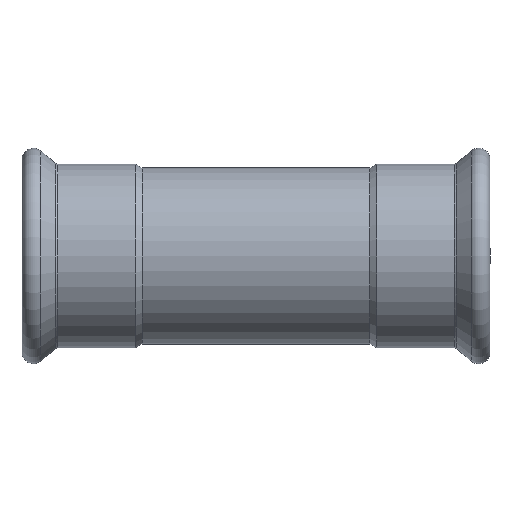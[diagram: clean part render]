
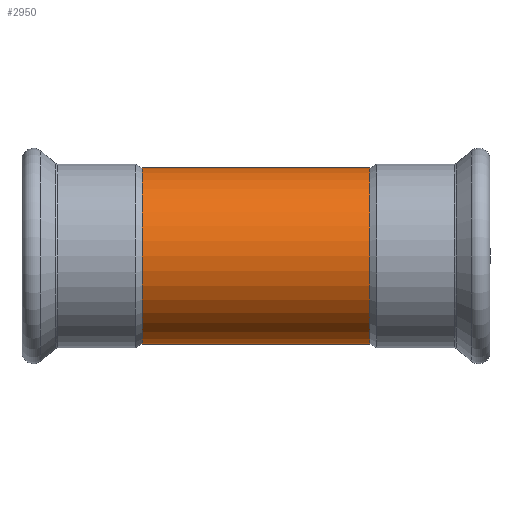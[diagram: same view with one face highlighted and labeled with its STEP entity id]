
A CAD part, front view. The second image highlights one B-rep face of the part: STEP entity #2950.
In plain terms, the highlighted cylindrical face has radius 54 mm (diameter 108 mm), a full revolution.
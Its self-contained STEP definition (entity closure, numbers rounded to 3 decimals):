
#2697=CARTESIAN_POINT('',(0.,37.743,38.62));
#2698=VERTEX_POINT('',#2697);
#2803=CARTESIAN_POINT('',(0.,37.743,38.62));
#2804=CARTESIAN_POINT('',(1.167,37.743,38.62));
#2805=CARTESIAN_POINT('',(2.725,37.811,38.554));
#2806=CARTESIAN_POINT('',(5.036,38.041,38.326));
#2807=CARTESIAN_POINT('',(6.948,38.313,38.056));
#2808=CARTESIAN_POINT('',(9.566,38.824,37.536));
#2809=CARTESIAN_POINT('',(11.753,39.39,36.942));
#2810=CARTESIAN_POINT('',(14.596,40.254,36.002));
#2811=CARTESIAN_POINT('',(16.997,41.12,35.02));
#2812=CARTESIAN_POINT('',(19.432,42.13,33.786));
#2813=CARTESIAN_POINT('',(20.685,42.687,33.076));
#2814=CARTESIAN_POINT('',(22.522,43.531,31.969));
#2815=CARTESIAN_POINT('',(25.02,44.767,30.253));
#2816=CARTESIAN_POINT('',(27.994,46.387,27.7));
#2817=CARTESIAN_POINT('',(29.969,47.532,25.65));
#2818=CARTESIAN_POINT('',(31.519,48.455,23.855));
#2819=CARTESIAN_POINT('',(32.902,49.301,22.08));
#2820=CARTESIAN_POINT('',(34.632,50.391,19.487));
#2821=CARTESIAN_POINT('',(36.034,51.3,16.94));
#2822=CARTESIAN_POINT('',(37.243,52.097,14.279));
#2823=CARTESIAN_POINT('',(38.189,52.73,11.759));
#2824=CARTESIAN_POINT('',(38.806,53.148,9.619));
#2825=CARTESIAN_POINT('',(39.259,53.457,7.69));
#2826=CARTESIAN_POINT('',(39.637,53.716,5.735));
#2827=CARTESIAN_POINT('',(40.09,54.027,2.014));
#2828=CARTESIAN_POINT('',(40.09,54.028,-1.756));
#2829=CARTESIAN_POINT('',(39.759,53.799,-4.736));
#2830=CARTESIAN_POINT('',(39.459,53.594,-6.709));
#2831=CARTESIAN_POINT('',(38.815,53.154,-9.872));
#2832=CARTESIAN_POINT('',(37.563,52.307,-13.646));
#2833=CARTESIAN_POINT('',(36.005,51.281,-16.976));
#2834=CARTESIAN_POINT('',(35.068,50.675,-18.674));
#2835=CARTESIAN_POINT('',(34.076,50.041,-20.321));
#2836=CARTESIAN_POINT('',(32.883,49.29,-22.106));
#2837=CARTESIAN_POINT('',(30.533,47.854,-25.116));
#2838=CARTESIAN_POINT('',(27.98,46.373,-27.731));
#2839=CARTESIAN_POINT('',(25.548,45.066,-29.761));
#2840=CARTESIAN_POINT('',(23.529,44.025,-31.289));
#2841=CARTESIAN_POINT('',(21.022,42.812,-32.942));
#2842=CARTESIAN_POINT('',(17.611,41.348,-34.755));
#2843=CARTESIAN_POINT('',(14.589,40.252,-36.006));
#2844=CARTESIAN_POINT('',(12.238,39.535,-36.786));
#2845=CARTESIAN_POINT('',(10.954,39.189,-37.152));
#2846=CARTESIAN_POINT('',(9.001,38.707,-37.657));
#2847=CARTESIAN_POINT('',(5.501,38.009,-38.363));
#2848=CARTESIAN_POINT('',(1.266,37.681,-38.679));
#2849=CARTESIAN_POINT('',(-1.849,37.774,-38.589));
#2850=CARTESIAN_POINT('',(-3.916,37.914,-38.452));
#2851=CARTESIAN_POINT('',(-7.245,38.297,-38.073));
#2852=CARTESIAN_POINT('',(-10.973,39.138,-37.219));
#2853=CARTESIAN_POINT('',(-13.812,40.017,-36.261));
#2854=CARTESIAN_POINT('',(-15.663,40.641,-35.561));
#2855=CARTESIAN_POINT('',(-17.678,41.392,-34.692));
#2856=CARTESIAN_POINT('',(-20.029,42.384,-33.473));
#2857=CARTESIAN_POINT('',(-21.676,43.14,-32.486));
#2858=CARTESIAN_POINT('',(-24.082,44.291,-30.922));
#2859=CARTESIAN_POINT('',(-26.537,45.577,-29.03));
#2860=CARTESIAN_POINT('',(-29.272,47.122,-26.406));
#2861=CARTESIAN_POINT('',(-31.485,48.428,-23.955));
#2862=CARTESIAN_POINT('',(-33.207,49.491,-21.659));
#2863=CARTESIAN_POINT('',(-34.758,50.474,-19.228));
#2864=CARTESIAN_POINT('',(-35.941,51.238,-17.121));
#2865=CARTESIAN_POINT('',(-37.168,52.047,-14.483));
#2866=CARTESIAN_POINT('',(-38.201,52.739,-11.722));
#2867=CARTESIAN_POINT('',(-38.848,53.177,-9.468));
#2868=CARTESIAN_POINT('',(-39.402,53.554,-7.049));
#2869=CARTESIAN_POINT('',(-39.894,53.892,-4.095));
#2870=CARTESIAN_POINT('',(-40.141,54.063,0.032));
#2871=CARTESIAN_POINT('',(-39.887,53.887,4.163));
#2872=CARTESIAN_POINT('',(-39.39,53.546,7.112));
#2873=CARTESIAN_POINT('',(-38.72,53.09,10.016));
#2874=CARTESIAN_POINT('',(-37.946,52.566,12.504));
#2875=CARTESIAN_POINT('',(-36.831,51.824,15.221));
#2876=CARTESIAN_POINT('',(-35.261,50.793,18.497));
#2877=CARTESIAN_POINT('',(-33.329,49.559,21.566));
#2878=CARTESIAN_POINT('',(-31.1,48.203,24.363));
#2879=CARTESIAN_POINT('',(-29.68,47.363,25.958));
#2880=CARTESIAN_POINT('',(-27.69,46.221,27.962));
#2881=CARTESIAN_POINT('',(-24.99,44.751,30.276));
#2882=CARTESIAN_POINT('',(-22.04,43.293,32.299));
#2883=CARTESIAN_POINT('',(-19.542,42.175,33.732));
#2884=CARTESIAN_POINT('',(-17.606,41.373,34.709));
#2885=CARTESIAN_POINT('',(-14.932,40.364,35.884));
#2886=CARTESIAN_POINT('',(-12.115,39.469,36.861));
#2887=CARTESIAN_POINT('',(-8.461,38.571,37.798));
#2888=CARTESIAN_POINT('',(-4.671,37.924,38.444));
#2889=CARTESIAN_POINT('',(-1.557,37.743,38.62));
#2890=CARTESIAN_POINT('',(0.,37.743,38.62));
#2891=CARTESIAN_POINT('',(0.,37.743,38.62));
#2892=CARTESIAN_POINT('',(0.,37.743,38.62));
#2893=CARTESIAN_POINT('',(0.,37.743,38.62));
#2894=B_SPLINE_CURVE_WITH_KNOTS('',3,(#2803,#2804,#2805,#2806,#2807,#2808,#2809,#2810,#2811,#2812,#2813,#2814,#2815,#2816,#2817,#2818,#2819,#2820,#2821,#2822,#2823,#2824,#2825,#2826,#2827,#2828,#2829,#2830,#2831,#2832,#2833,#2834,#2835,#2836,#2837,#2838,#2839,#2840,#2841,#2842,#2843,#2844,#2845,#2846,#2847,#2848,#2849,#2850,#2851,#2852,#2853,#2854,#2855,#2856,#2857,#2858,#2859,#2860,#2861,#2862,#2863,#2864,#2865,#2866,#2867,#2868,#2869,#2870,#2871,#2872,#2873,#2874,#2875,#2876,#2877,#2878,#2879,#2880,#2881,#2882,#2883,#2884,#2885,#2886,#2887,#2888,#2889,#2890,#2891,#2892,#2893),.UNSPECIFIED.,.T.,.U.,(4,1,1,1,1,1,1,1,1,1,1,1,1,1,1,1,1,1,1,1,1,1,1,1,1,1,1,1,1,1,1,1,1,1,1,1,1,1,1,1,1,1,1,1,1,1,1,1,1,1,1,1,1,1,1,1,1,1,1,1,1,1,1,1,1,1,1,1,1,1,1,1,1,1,1,1,1,1,1,1,1,1,1,1,1,3,4),(-24.045,-23.723,-23.616,-23.401,-23.186,-22.864,-22.757,-22.327,-22.113,-21.952,-21.898,-21.469,-21.039,-20.717,-20.61,-20.324,-20.037,-19.68,-19.465,-19.179,-18.892,-18.821,-18.606,-18.32,-17.747,-17.533,-17.461,-17.175,-16.602,-16.316,-16.102,-16.03,-15.744,-15.457,-14.885,-14.646,-14.503,-14.122,-13.74,-13.358,-13.167,-13.024,-12.977,-12.595,-12.022,-11.808,-11.736,-11.45,-10.877,-10.663,-10.591,-10.305,-10.019,-9.804,-9.732,-9.16,-8.874,-8.587,-8.158,-8.015,-7.729,-7.442,-7.156,-6.87,-6.763,-6.441,-6.011,-5.582,-5.26,-5.152,-4.723,-4.508,-4.294,-3.65,-3.435,-3.22,-3.006,-2.576,-2.147,-1.932,-1.717,-1.503,-1.073,-0.859,-0.429,0.0,0.),.UNSPECIFIED.);
#2895=EDGE_CURVE('',#2698,#2698,#2894,.T.);
#2920=CARTESIAN_POINT('',(0.,0.,0.0));
#2921=DIRECTION('',(1.0,0.,0.0));
#2922=DIRECTION('',(0.0,1.0,0.0));
#2923=AXIS2_PLACEMENT_3D('',#2920,#2921,#2922);
#2924=CYLINDRICAL_SURFACE('',#2923,54.);
#2925=CARTESIAN_POINT('',(-69.894,54.0,0.0));
#2926=VERTEX_POINT('',#2925);
#2927=CARTESIAN_POINT('',(-69.894,0.,0.0));
#2928=DIRECTION('',(1.0,0.0,0.0));
#2929=DIRECTION('',(0.0,1.0,0.0));
#2930=AXIS2_PLACEMENT_3D('',#2927,#2928,#2929);
#2931=CIRCLE('',#2930,54.);
#2932=EDGE_CURVE('',#2926,#2926,#2931,.T.);
#2933=ORIENTED_EDGE('',*,*,#2932,.T.);
#2934=EDGE_LOOP('',(#2933));
#2935=FACE_OUTER_BOUND('',#2934,.T.);
#2936=CARTESIAN_POINT('',(69.894,54.,0.0));
#2937=VERTEX_POINT('',#2936);
#2938=CARTESIAN_POINT('',(69.894,0.,0.0));
#2939=DIRECTION('',(1.0,0.0,0.0));
#2940=DIRECTION('',(0.0,1.0,0.0));
#2941=AXIS2_PLACEMENT_3D('',#2938,#2939,#2940);
#2942=CIRCLE('',#2941,54.);
#2943=EDGE_CURVE('',#2937,#2937,#2942,.T.);
#2944=ORIENTED_EDGE('',*,*,#2943,.F.);
#2945=EDGE_LOOP('',(#2944));
#2946=FACE_BOUND('',#2945,.T.);
#2947=ORIENTED_EDGE('',*,*,#2895,.F.);
#2948=EDGE_LOOP('',(#2947));
#2949=FACE_BOUND('',#2948,.T.);
#2950=ADVANCED_FACE('',(#2935,#2946,#2949),#2924,.T.);
